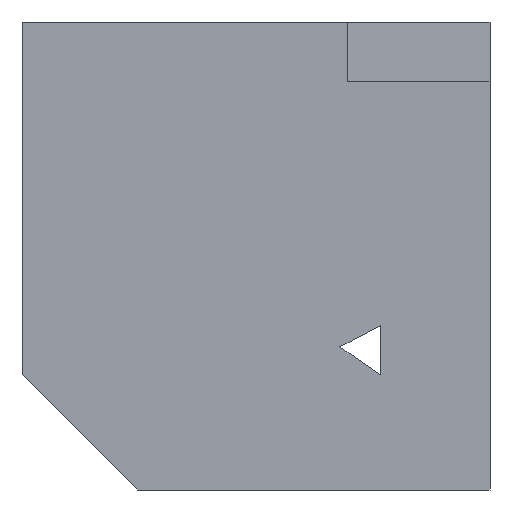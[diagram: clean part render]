
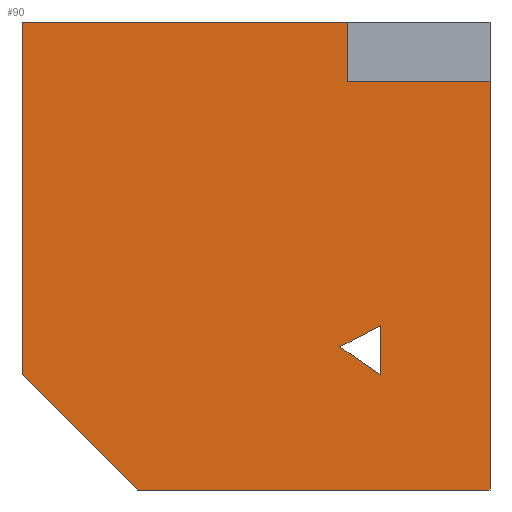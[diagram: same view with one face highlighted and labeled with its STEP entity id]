
A CAD part, front view. The second image highlights one B-rep face of the part: STEP entity #90.
In plain terms, the highlighted planar face has unit normal (0, -1, 0).
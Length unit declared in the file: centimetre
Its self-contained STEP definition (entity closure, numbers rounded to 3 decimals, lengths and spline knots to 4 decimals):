
#2 = ORIENTED_EDGE ( 'NONE', *, *, #278, .F. ) ;
#7 = EDGE_CURVE ( 'NONE', #358, #452, #472, .T. ) ;
#12 = ORIENTED_EDGE ( 'NONE', *, *, #244, .F. ) ;
#32 = LINE ( 'NONE', #64, #371 ) ;
#36 = CARTESIAN_POINT ( 'NONE',  ( 694.643, 0., 872.8879 ) ) ;
#44 = CARTESIAN_POINT ( 'NONE',  ( 1000., 0., 0. ) ) ;
#46 = VECTOR ( 'NONE', #164, 100. ) ;
#49 = CARTESIAN_POINT ( 'NONE',  ( 1000., 0., 1000. ) ) ;
#57 = EDGE_CURVE ( 'NONE', #326, #162, #489, .T. ) ;
#63 = EDGE_CURVE ( 'NONE', #202, #326, #32, .T. ) ;
#64 = CARTESIAN_POINT ( 'NONE',  ( 0., 0., 246.0395 ) ) ;
#69 = LINE ( 'NONE', #339, #329 ) ;
#86 = ORIENTED_EDGE ( 'NONE', *, *, #487, .F. ) ;
#88 = CARTESIAN_POINT ( 'NONE',  ( 679.2068, 0., 305.8691 ) ) ;
#90 = ADVANCED_FACE ( 'NONE', ( #111, #236 ), #303, .F. ) ;
#91 = VECTOR ( 'NONE', #153, 100. ) ;
#92 = AXIS2_PLACEMENT_3D ( 'NONE', #375, #496, #157 ) ;
#93 = CARTESIAN_POINT ( 'NONE',  ( 0., 0., 246.0395 ) ) ;
#100 = CARTESIAN_POINT ( 'NONE',  ( 1000., 0., 872.8879 ) ) ;
#111 = FACE_BOUND ( 'NONE', #403, .T. ) ;
#120 = VECTOR ( 'NONE', #363, 100. ) ;
#126 = LINE ( 'NONE', #357, #453 ) ;
#127 = ORIENTED_EDGE ( 'NONE', *, *, #63, .T. ) ;
#136 = EDGE_CURVE ( 'NONE', #291, #202, #69, .T. ) ;
#153 = DIRECTION ( 'NONE',  ( 1., 0., 0. ) ) ;
#157 = DIRECTION ( 'NONE',  ( 0., 0., 1. ) ) ;
#162 = VERTEX_POINT ( 'NONE', #44 ) ;
#164 = DIRECTION ( 'NONE',  ( 0., 0., -1. ) ) ;
#178 = CARTESIAN_POINT ( 'NONE',  ( 766.265, 0., 245.8355 ) ) ;
#186 = LINE ( 'NONE', #269, #359 ) ;
#188 = EDGE_CURVE ( 'NONE', #386, #358, #361, .T. ) ;
#202 = VERTEX_POINT ( 'NONE', #93 ) ;
#207 = EDGE_CURVE ( 'NONE', #291, #386, #424, .T. ) ;
#208 = ORIENTED_EDGE ( 'NONE', *, *, #7, .F. ) ;
#214 = ORIENTED_EDGE ( 'NONE', *, *, #136, .T. ) ;
#216 = CARTESIAN_POINT ( 'NONE',  ( 694.643, 0., 872.8879 ) ) ;
#219 = ORIENTED_EDGE ( 'NONE', *, *, #207, .F. ) ;
#236 = FACE_OUTER_BOUND ( 'NONE', #469, .T. ) ;
#244 = EDGE_CURVE ( 'NONE', #493, #261, #126, .T. ) ;
#249 = CARTESIAN_POINT ( 'NONE',  ( 679.2068, 0., 305.8691 ) ) ;
#250 = DIRECTION ( 'NONE',  ( 0.823, 0., -0.568 ) ) ;
#257 = LINE ( 'NONE', #49, #120 ) ;
#261 = VERTEX_POINT ( 'NONE', #249 ) ;
#262 = CARTESIAN_POINT ( 'NONE',  ( 0., 0., 1000. ) ) ;
#268 = DIRECTION ( 'NONE',  ( 0., 0., -1. ) ) ;
#269 = CARTESIAN_POINT ( 'NONE',  ( 766.265, 0., 245.8355 ) ) ;
#277 = CARTESIAN_POINT ( 'NONE',  ( 0., 0., 1000. ) ) ;
#278 = EDGE_CURVE ( 'NONE', #261, #383, #282, .T. ) ;
#279 = DIRECTION ( 'NONE',  ( -0.887, 0., -0.462 ) ) ;
#281 = DIRECTION ( 'NONE',  ( 1., 0., 0. ) ) ;
#282 = LINE ( 'NONE', #88, #310 ) ;
#291 = VERTEX_POINT ( 'NONE', #262 ) ;
#298 = DIRECTION ( 'NONE',  ( 0.707, 0., -0.707 ) ) ;
#303 = PLANE ( 'NONE',  #92 ) ;
#310 = VECTOR ( 'NONE', #250, 100. ) ;
#326 = VERTEX_POINT ( 'NONE', #473 ) ;
#329 = VECTOR ( 'NONE', #268, 100. ) ;
#339 = CARTESIAN_POINT ( 'NONE',  ( 0., 0., 1000. ) ) ;
#345 = DIRECTION ( 'NONE',  ( 0., 0., 1. ) ) ;
#346 = DIRECTION ( 'NONE',  ( 1., 0., 0. ) ) ;
#356 = ORIENTED_EDGE ( 'NONE', *, *, #57, .T. ) ;
#357 = CARTESIAN_POINT ( 'NONE',  ( 766.265, 0., 351.2468 ) ) ;
#358 = VERTEX_POINT ( 'NONE', #216 ) ;
#359 = VECTOR ( 'NONE', #345, 100. ) ;
#361 = LINE ( 'NONE', #36, #46 ) ;
#363 = DIRECTION ( 'NONE',  ( 0., 0., -1. ) ) ;
#365 = VECTOR ( 'NONE', #346, 100. ) ;
#371 = VECTOR ( 'NONE', #298, 100. ) ;
#374 = ORIENTED_EDGE ( 'NONE', *, *, #188, .F. ) ;
#375 = CARTESIAN_POINT ( 'NONE',  ( 0., 0., 1000. ) ) ;
#383 = VERTEX_POINT ( 'NONE', #178 ) ;
#386 = VERTEX_POINT ( 'NONE', #440 ) ;
#396 = VECTOR ( 'NONE', #281, 100. ) ;
#403 = EDGE_LOOP ( 'NONE', ( #2, #12, #86 ) ) ;
#405 = CARTESIAN_POINT ( 'NONE',  ( 766.265, 0., 351.2468 ) ) ;
#409 = CARTESIAN_POINT ( 'NONE',  ( 694.643, 0., 872.8879 ) ) ;
#411 = EDGE_CURVE ( 'NONE', #452, #162, #257, .T. ) ;
#424 = LINE ( 'NONE', #277, #396 ) ;
#440 = CARTESIAN_POINT ( 'NONE',  ( 694.643, 0., 1000. ) ) ;
#452 = VERTEX_POINT ( 'NONE', #100 ) ;
#453 = VECTOR ( 'NONE', #279, 100. ) ;
#454 = CARTESIAN_POINT ( 'NONE',  ( 0., 0., 0. ) ) ;
#463 = ORIENTED_EDGE ( 'NONE', *, *, #411, .F. ) ;
#469 = EDGE_LOOP ( 'NONE', ( #463, #208, #374, #219, #214, #127, #356 ) ) ;
#472 = LINE ( 'NONE', #409, #365 ) ;
#473 = CARTESIAN_POINT ( 'NONE',  ( 246.0395, 0., 0. ) ) ;
#487 = EDGE_CURVE ( 'NONE', #383, #493, #186, .T. ) ;
#489 = LINE ( 'NONE', #454, #91 ) ;
#493 = VERTEX_POINT ( 'NONE', #405 ) ;
#496 = DIRECTION ( 'NONE',  ( 0., 1., 0. ) ) ;
